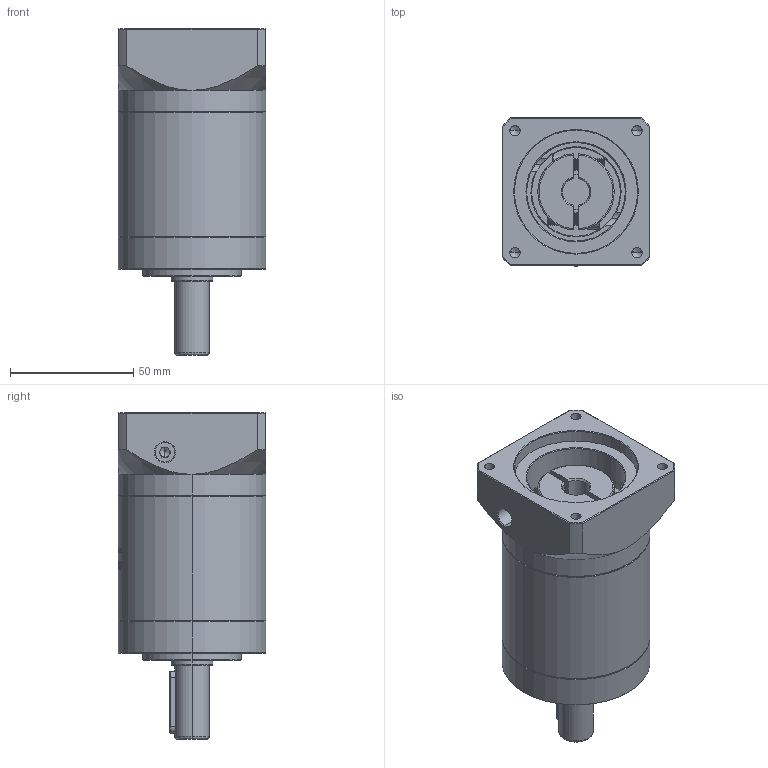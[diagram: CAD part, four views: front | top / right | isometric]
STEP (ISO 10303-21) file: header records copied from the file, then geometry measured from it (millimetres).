
FILE_DESCRIPTION (( 'STEP AP214' ), '1' );
FILE_NAME ('ZE60-D14-L2-11-50-70-M5.STEP', '2022-04-17T15:19:03', ( '' ), ( 'Microsoft' ), 'SwSTEP 2.0', 'SolidWorks 2016', '' );
FILE_SCHEMA (( 'AUTOMOTIVE_DESIGN' ));
Length unit declared in the file: millimetre
Products named in the file (1): ZE60-D14-L2-11-50-70-M5
Bounding box: 60 x 60 x 132.5 mm (x, y, z)
Volume: 262683.2 mm3; surface area: 45805 mm2
Topology: 6 solids, 6 shells, 1598 faces, 4329 edges, 2803 vertices
Faces by surface type: plane 724, cylinder 335, bspline 299, cone 220, torus 20
Entity records: 90452 total; most frequent: CARTESIAN_POINT 36354, ORIENTED_EDGE 8614, DIRECTION 6301, EDGE_CURVE 4307, VERTEX_POINT 2803, LINE 2203, VECTOR 2203, AXIS2_PLACEMENT_3D 2049
